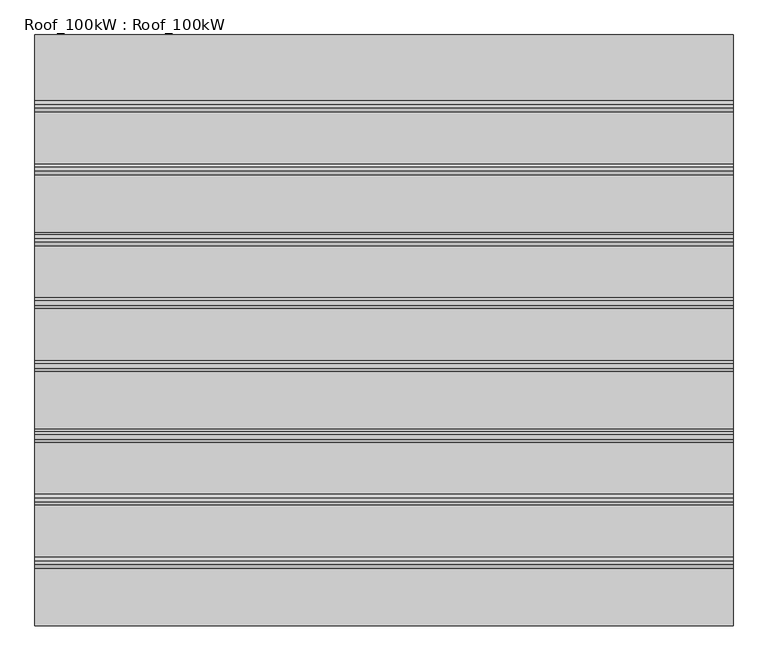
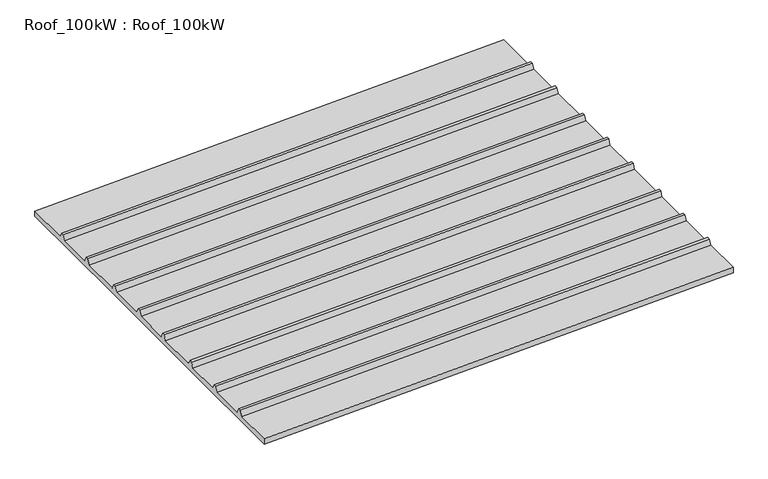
"""IFC4 building model written with IfcOpenShell, lengths in millimetres: beam geometry, Roof_100kW : Roof_100kW."""

from ifc_helpers import new_model, si_unit, origin, place, context, project, spatial, faceted_brep, source, transform, mapped, element, save


def roof_100kw_roof_100kw_5ecf8ffd(model_context):
    return source(origin(), model_context, "Body", "Brep", [
        faceted_brep([(0.0, -2948.0232819, 3437.3198687), (0.0, -1048.0232819, 3437.3198687), (0.0, 851.9767181, 3437.3198687), (0.0, 2760.9767181, 3437.3198687), (0.0, 2760.9767181, 3517.2711391), (0.0, 2125.3815816, 3517.2711391), (0.0, 2091.7422796, 3589.4108551), (0.0, 2051.7422796, 3589.4108551), (0.0, 2018.1029776, 3517.2711391), (0.0, 1515.678579, 3517.2711391), (0.0, 1482.039277, 3589.4108551), (0.0, 1442.039277, 3589.4108551), (0.0, 1408.399975, 3517.2711391), (0.0, 851.9767181, 3517.2711391), (0.0, 830.9160201, 3517.2711391), (0.0, 797.2767181, 3589.4108551), (0.0, 757.2767181, 3589.4108551), (0.0, 723.6374161, 3517.2711391), (0.0, 225.3815816, 3517.2711391), (0.0, 191.7422796, 3589.4108551), (0.0, 151.7422796, 3589.4108551), (0.0, 118.1029776, 3517.2711391), (0.0, -384.321421, 3517.2711391), (0.0, -417.960723, 3589.4108551), (0.0, -457.960723, 3589.4108551), (0.0, -491.600025, 3517.2711391), (0.0, -1048.0232819, 3517.2711391), (0.0, -1069.0839799, 3517.2711391), (0.0, -1102.7232819, 3589.4108551), (0.0, -1142.7232819, 3589.4108551), (0.0, -1176.3625839, 3517.2711391), (0.0, -1674.6184184, 3517.2711391), (0.0, -1708.2577204, 3589.4108551), (0.0, -1748.2577204, 3589.4108551), (0.0, -1781.8970224, 3517.2711391), (0.0, -2284.321421, 3517.2711391), (0.0, -2317.960723, 3589.4108551), (0.0, -2357.960723, 3589.4108551), (0.0, -2391.600025, 3517.2711391), (0.0, -2948.0232819, 3517.2711391), (-6744.4710816, -2948.0232819, 3192.3198687), (-6744.4710816, -2948.0232819, 3272.2711391), (-6744.4710816, -2391.600025, 3272.2711391), (-6744.4710816, -2357.960723, 3344.4108551), (-6744.4710816, -2317.960723, 3344.4108551), (-6744.4710816, -2284.321421, 3272.2711391), (-6744.4710816, -1781.8970224, 3272.2711391), (-6744.4710816, -1748.2577204, 3344.4108551), (-6744.4710816, -1708.2577204, 3344.4108551), (-6744.4710816, -1674.6184184, 3272.2711391), (-6744.4710816, -1176.3625839, 3272.2711391), (-6744.4710816, -1142.7232819, 3344.4108551), (-6744.4710816, -1102.7232819, 3344.4108551), (-6744.4710816, -1069.0839799, 3272.2711391), (-6744.4710816, -1048.0232819, 3272.2711391), (-6744.4710816, -491.600025, 3272.2711391), (-6744.4710816, -457.960723, 3344.4108551), (-6744.4710816, -417.960723, 3344.4108551), (-6744.4710816, -384.321421, 3272.2711391), (-6744.4710816, 118.1029776, 3272.2711391), (-6744.4710816, 151.7422796, 3344.4108551), (-6744.4710816, 191.7422796, 3344.4108551), (-6744.4710816, 225.3815816, 3272.2711391), (-6744.4710816, 723.6374161, 3272.2711391), (-6744.4710816, 757.2767181, 3344.4108551), (-6744.4710816, 797.2767181, 3344.4108551), (-6744.4710816, 830.9160201, 3272.2711391), (-6744.4710816, 851.9767181, 3272.2711391), (-6744.4710816, 1408.399975, 3272.2711391), (-6744.4710816, 1442.039277, 3344.4108551), (-6744.4710816, 1482.039277, 3344.4108551), (-6744.4710816, 1515.678579, 3272.2711391), (-6744.4710816, 2018.1029776, 3272.2711391), (-6744.4710816, 2051.7422796, 3344.4108551), (-6744.4710816, 2091.7422796, 3344.4108551), (-6744.4710816, 2125.3815816, 3272.2711391), (-6744.4710816, 2760.9767181, 3272.2711391), (-6744.4710816, 2760.9767181, 3192.3198687), (-6744.4710816, 851.9767181, 3192.3198687), (-6744.4710816, -1048.0232819, 3192.3198687)], [[[0, 1, 2, 3, 4, 5, 6, 7, 8, 9, 10, 11, 12, 13, 14, 15, 16, 17, 18, 19, 20, 21, 22, 23, 24, 25, 26, 27, 28, 29, 30, 31, 32, 33, 34, 35, 36, 37, 38, 39]], [[40, 41, 42, 43, 44, 45, 46, 47, 48, 49, 50, 51, 52, 53, 54, 55, 56, 57, 58, 59, 60, 61, 62, 63, 64, 65, 66, 67, 68, 69, 70, 71, 72, 73, 74, 75, 76, 77, 78, 79]], [[40, 0, 39, 41]], [[41, 39, 38, 42]], [[42, 38, 37, 43]], [[43, 37, 36, 44]], [[44, 36, 35, 45]], [[45, 35, 34, 46]], [[46, 34, 33, 47]], [[47, 33, 32, 48]], [[48, 32, 31, 49]], [[49, 31, 30, 50]], [[50, 30, 29, 51]], [[51, 29, 28, 52]], [[52, 28, 27, 53]], [[53, 27, 26, 54]], [[54, 26, 25, 55]], [[55, 25, 24, 56]], [[56, 24, 23, 57]], [[57, 23, 22, 58]], [[58, 22, 21, 59]], [[59, 21, 20, 60]], [[60, 20, 19, 61]], [[61, 19, 18, 62]], [[62, 18, 17, 63]], [[63, 17, 16, 64]], [[64, 16, 15, 65]], [[65, 15, 14, 66]], [[66, 14, 13, 67]], [[67, 13, 12, 68]], [[68, 12, 11, 69]], [[69, 11, 10, 70]], [[70, 10, 9, 71]], [[71, 9, 8, 72]], [[72, 8, 7, 73]], [[73, 7, 6, 74]], [[74, 6, 5, 75]], [[75, 5, 4, 76]], [[76, 4, 3, 77]], [[77, 3, 2, 78]], [[78, 2, 1, 79]], [[79, 1, 0, 40]]]),
    ])


if __name__ == "__main__":
    model = new_model("IFC4")
    model_context = context("Model", 3, world=origin())
    ifc_project = project(units=[si_unit("LENGTHUNIT", "METRE", prefix="MILLI")], contexts=[model_context])
    site = spatial("IfcSite", under=ifc_project)
    building = spatial("IfcBuilding", under=site)
    placement = place(None, origin())
    roof_100kw_roof_100kw_shape = roof_100kw_roof_100kw_5ecf8ffd(model_context)
    element("IfcBeam", 1, ObjectType="Roof_100kW : Roof_100kW", at=placement, inside=building, context=model_context, shape_type="MappedRepresentation", body=[
        mapped(roof_100kw_roof_100kw_shape, transform((0.0, 0.0, 0.0), x_axis=(1.0, 0.0, 0.0), y_axis=(0.0, 1.0, 0.0), z_axis=(0.0, 0.0, 1.0))),
    ])
    save(model, "model.ifc")
